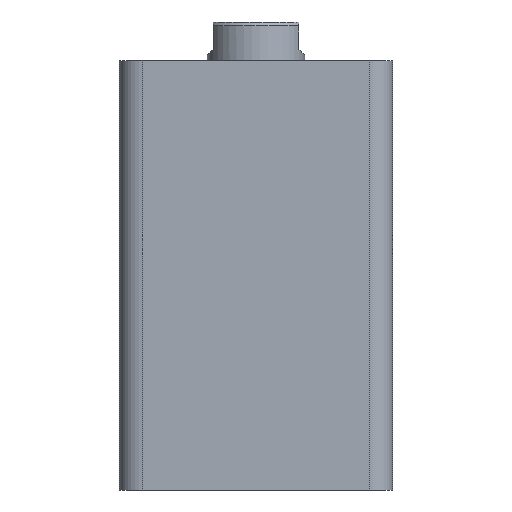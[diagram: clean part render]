
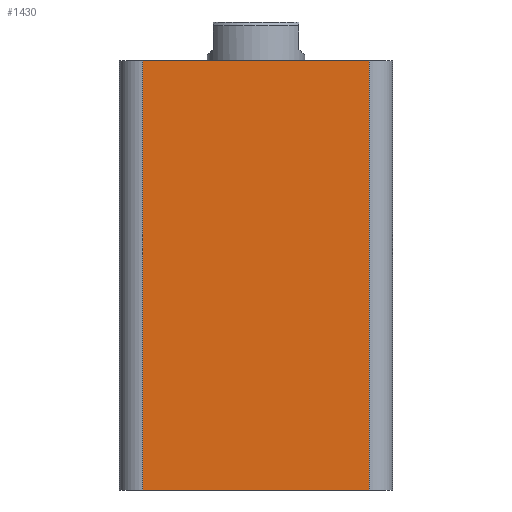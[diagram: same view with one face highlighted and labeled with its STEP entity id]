
A CAD part, front view. The second image highlights one B-rep face of the part: STEP entity #1430.
In plain terms, the highlighted planar face has unit normal (0, -1, 0).
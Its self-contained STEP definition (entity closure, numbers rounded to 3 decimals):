
#2 = VECTOR ( 'NONE', #2208, 1000. ) ;
#20 = VECTOR ( 'NONE', #2299, 1000. ) ;
#37 = LINE ( 'NONE', #2000, #47 ) ;
#40 = LINE ( 'NONE', #1998, #20 ) ;
#47 = VECTOR ( 'NONE', #1999, 1000. ) ;
#61 = LINE ( 'NONE', #2140, #2 ) ;
#63 = VECTOR ( 'NONE', #2298, 1000. ) ;
#101 = LINE ( 'NONE', #2016, #63 ) ;
#160 = AXIS2_PLACEMENT_3D ( 'NONE', #2354, #2349, #2348 ) ;
#264 = FACE_OUTER_BOUND ( 'NONE', #592, .T. ) ;
#592 = EDGE_LOOP ( 'NONE', ( #1156, #1158, #1154, #1162 ) ) ;
#1111 = VERTEX_POINT ( 'NONE', #2467 ) ;
#1116 = VERTEX_POINT ( 'NONE', #2449 ) ;
#1125 = VERTEX_POINT ( 'NONE', #2404 ) ;
#1139 = VERTEX_POINT ( 'NONE', #2330 ) ;
#1154 = ORIENTED_EDGE ( 'NONE', *, *, #1511, .T. ) ;
#1156 = ORIENTED_EDGE ( 'NONE', *, *, #1509, .F. ) ;
#1158 = ORIENTED_EDGE ( 'NONE', *, *, #1510, .T. ) ;
#1162 = ORIENTED_EDGE ( 'NONE', *, *, #1512, .T. ) ;
#1430 = ADVANCED_FACE ( 'NONE', ( #264 ), #2352, .F. ) ;
#1509 = EDGE_CURVE ( 'NONE', #1116, #1111, #37, .T. ) ;
#1510 = EDGE_CURVE ( 'NONE', #1116, #1125, #40, .T. ) ;
#1511 = EDGE_CURVE ( 'NONE', #1125, #1139, #101, .T. ) ;
#1512 = EDGE_CURVE ( 'NONE', #1139, #1111, #61, .T. ) ;
#1998 = CARTESIAN_POINT ( 'NONE',  ( -29., -35., 110. ) ) ;
#1999 = DIRECTION ( 'NONE',  ( 1., 0., 0. ) ) ;
#2000 = CARTESIAN_POINT ( 'NONE',  ( -35., -35., 110. ) ) ;
#2016 = CARTESIAN_POINT ( 'NONE',  ( -35., -35., 0. ) ) ;
#2140 = CARTESIAN_POINT ( 'NONE',  ( 29., -35., 110. ) ) ;
#2208 = DIRECTION ( 'NONE',  ( 0., 0., 1. ) ) ;
#2298 = DIRECTION ( 'NONE',  ( 1., 0., 0. ) ) ;
#2299 = DIRECTION ( 'NONE',  ( 0., 0., -1. ) ) ;
#2330 = CARTESIAN_POINT ( 'NONE',  ( 29., -35., 0. ) ) ;
#2348 = DIRECTION ( 'NONE',  ( 0., 0., 1. ) ) ;
#2349 = DIRECTION ( 'NONE',  ( 0., 1., 0. ) ) ;
#2352 = PLANE ( 'NONE',  #160 ) ;
#2354 = CARTESIAN_POINT ( 'NONE',  ( -35., -35., 110. ) ) ;
#2404 = CARTESIAN_POINT ( 'NONE',  ( -29., -35., 0. ) ) ;
#2449 = CARTESIAN_POINT ( 'NONE',  ( -29., -35., 110. ) ) ;
#2467 = CARTESIAN_POINT ( 'NONE',  ( 29., -35., 110. ) ) ;
